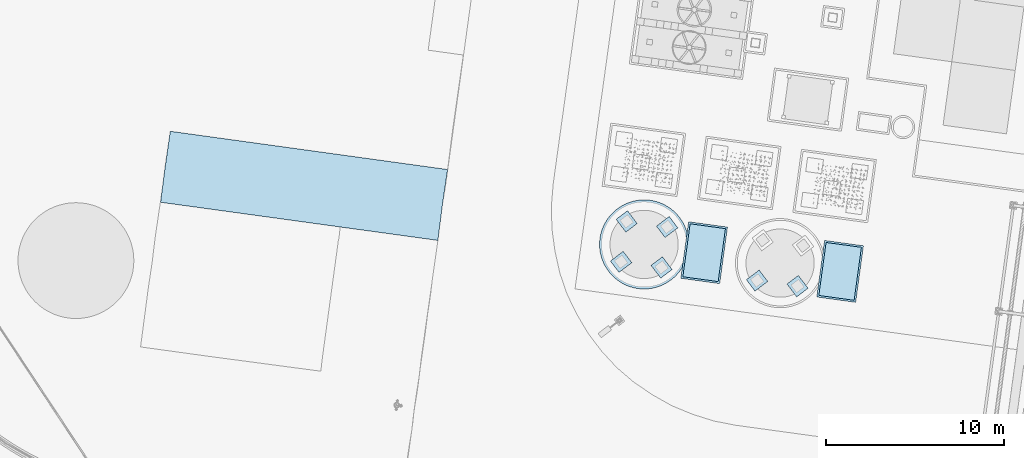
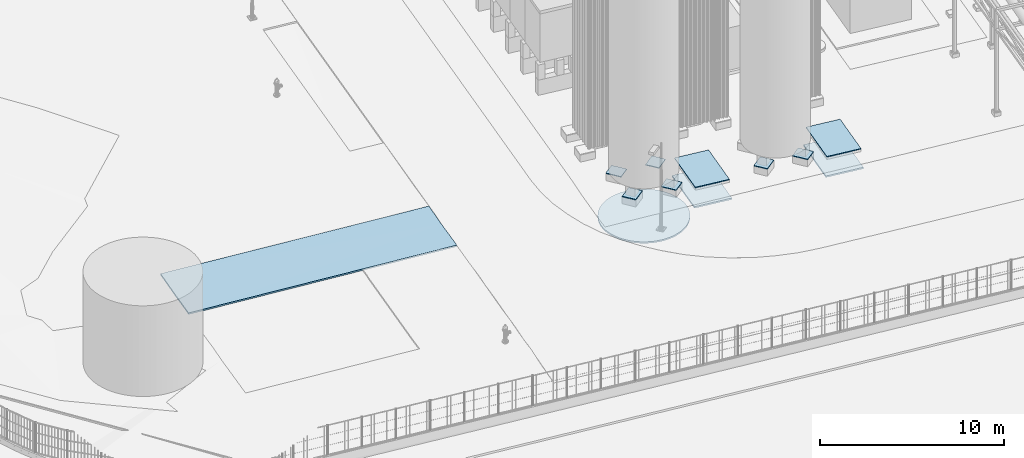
# Not in any storey, part 13 of 75: 12 slabs.
"""IFC4 model written with IfcOpenShell, lengths in metres."""

from ifc_helpers import new_model, si_unit, direction, origin, origin_with_axes, place, context, subcontext, project, spatial, triangles, material, element, save


model = new_model("IFC4")

# Units and contexts
model_context = context("Model", 3, precision=1e-05, world=origin_with_axes(), true_north=direction((0.0, 1.0)))
body_context = subcontext(model_context, "Body", "Model", "MODEL_VIEW")
ifc_project = project(units=[si_unit("AREAUNIT", "SQUARE_METRE"), si_unit("VOLUMEUNIT", "CUBIC_METRE"), si_unit("LENGTHUNIT", "METRE")], contexts=[model_context])

# Site
site_placement = place(None, origin_with_axes())
site = spatial("IfcSite", under=ifc_project, at=site_placement, Name="Parcela industrial Jinhong")

# Slabs
slab_1_placement = place(site_placement, origin_with_axes())
element("IfcSlab", 1, at=slab_1_placement, inside=site, Name="Zona pavimentada 01", ObjectType="Pavimentos exteriores", PredefinedType="USERDEFINED", context=body_context, shape_type="Tessellation", body=[
    triangles([(25.079249, 34.882136, 0.937637), (9.487189, 36.721412, 0.603629), (9.793376, 38.862508, 0.60182), (25.351279, 36.716545, 0.931525), (24.806968, 32.740098, 0.945256), (9.453405, 34.852006, 0.610298), (9.249072, 34.886078, 0.60571), (25.079249, 34.882136, 1.037637), (9.487189, 36.721412, 0.703629), (9.793376, 38.862508, 0.70182), (25.351279, 36.716545, 1.031525), (24.806968, 32.740098, 1.045256), (9.453405, 34.852006, 0.710298), (9.249072, 34.886078, 0.70571)], [[1, 2, 3], [3, 4, 1], [1, 5, 6], [2, 6, 7], [2, 1, 6], [10, 9, 8], [8, 11, 10], [13, 12, 8], [14, 13, 9], [13, 8, 9], [9, 10, 2], [2, 10, 3], [11, 8, 4], [4, 8, 1], [10, 11, 3], [3, 11, 4], [8, 12, 1], [1, 12, 5], [12, 13, 5], [5, 13, 6], [14, 9, 7], [7, 9, 2], [13, 14, 6], [6, 14, 7]], closed=True),
])
ifc_material_1 = material(Name="Hormigón de limpieza HA-20", Category="Material documentado")
slab_2_placement = place(None, origin())
element("IfcSlab", 2, at=slab_2_placement, inside=site, material=ifc_material_1, Name="Cimentación del depósito SV1801A · capa de limpieza", ObjectType="Cimentación industrial", PredefinedType="USERDEFINED", context=body_context, shape_type="Tessellation", body=[
    triangles([(38.841232, 32.092655, -1.0), (38.826126, 32.012252, -1.0), (38.808397, 31.932388, -1.0), (38.739679, 31.696869, -1.0), (38.788065, 31.853146, -1.0), (38.765151, 31.774611, -1.0), (38.681176, 31.54409, -1.0), (38.711677, 31.62, -1.0), (38.612806, 31.395465, -1.0), (38.648208, 31.469218, -1.0), (38.575011, 31.32291, -1.0), (38.400736, 31.0462, -1.0), (38.534862, 31.25163, -1.0), (38.492403, 31.181703, -1.0), (38.447678, 31.113201, -1.0), (38.247119, 30.854906, -1.0), (38.351626, 30.980771, -1.0), (38.300403, 30.916983, -1.0), (38.134604, 30.736145, -1.0), (38.191834, 30.794605, -1.0), (38.075492, 30.679589, -1.0), (37.887508, 30.52194, -1.0), (38.014563, 30.624998, -1.0), (37.951878, 30.572429, -1.0), (37.753985, 30.427412, -1.0), (37.82152, 30.473584, -1.0), (37.684977, 30.383476, -1.0), (37.469848, 30.265529, -1.0), (37.614567, 30.341819, -1.0), (37.542832, 30.30249, -1.0), (37.32045, 30.198866, -1.0), (37.395695, 30.230975, -1.0), (37.244195, 30.169236, -1.0), (37.167012, 30.142117, -1.0), (37.088982, 30.117538, -1.0), (37.010191, 30.095526, -1.0), (36.93072, 30.076103, -1.0), (36.689096, 30.033567, -1.0), (36.850657, 30.05929, -1.0), (36.770088, 30.045106, -1.0), (36.526198, 30.018464, -1.0), (36.607771, 30.024683, -1.0), (36.362662, 30.014048, -1.0), (36.444466, 30.014917, -1.0), (36.036472, 30.037305, -1.0), (36.280872, 30.015855, -1.0), (36.199187, 30.020337, -1.0), (36.11769, 30.02749, -1.0), (35.795352, 30.082607, -1.0), (35.955619, 30.049772, -1.0), (35.875216, 30.064878, -1.0), (35.559832, 30.151325, -1.0), (35.71611, 30.10294, -1.0), (35.637575, 30.125853, -1.0), (35.407054, 30.209828, -1.0), (35.482964, 30.179327, -1.0), (35.258429, 30.278198, -1.0), (35.332182, 30.242797, -1.0), (35.185874, 30.315993, -1.0), (34.909164, 30.490268, -1.0), (35.114594, 30.356142, -1.0), (35.044667, 30.398601, -1.0), (34.976165, 30.443326, -1.0), (34.71787, 30.643885, -1.0), (34.843734, 30.539378, -1.0), (34.779947, 30.590601, -1.0), (34.599109, 30.7564, -1.0), (34.657569, 30.69917, -1.0), (34.542553, 30.815512, -1.0), (34.384904, 31.003497, -1.0), (34.487962, 30.876442, -1.0), (34.435393, 30.939126, -1.0), (34.290376, 31.137019, -1.0), (34.336547, 31.069484, -1.0), (34.246439, 31.206027, -1.0), (34.128493, 31.421156, -1.0), (34.204783, 31.276437, -1.0), (34.165453, 31.348173, -1.0), (34.06183, 31.570554, -1.0), (34.093939, 31.495309, -1.0), (34.0322, 31.646809, -1.0), (34.005081, 31.723992, -1.0), (33.980502, 31.802022, -1.0), (33.958489, 31.880814, -1.0), (33.939067, 31.960284, -1.0), (33.89653, 32.201908, -1.0), (33.922254, 32.040347, -1.0), (33.90807, 32.120917, -1.0), (33.881428, 32.364806, -1.0), (33.887646, 32.283233, -1.0), (33.877012, 32.528343, -1.0), (33.877881, 32.446538, -1.0), (33.900269, 32.854532, -1.0), (33.878819, 32.610132, -1.0), (33.883301, 32.691818, -1.0), (33.890453, 32.773314, -1.0), (33.945571, 33.095653, -1.0), (33.912736, 32.935385, -1.0), (33.927842, 33.015788, -1.0), (34.014289, 33.331172, -1.0), (33.965903, 33.174895, -1.0), (33.988817, 33.25343, -1.0), (34.072792, 33.48395, -1.0), (34.042291, 33.40804, -1.0), (34.141162, 33.632575, -1.0), (34.10576, 33.558823, -1.0), (34.178957, 33.70513, -1.0), (34.353232, 33.98184, -1.0), (34.219106, 33.77641, -1.0), (34.261565, 33.846338, -1.0), (34.30629, 33.914839, -1.0), (34.506849, 34.173135, -1.0), (34.402342, 34.04727, -1.0), (34.453565, 34.111058, -1.0), (34.619364, 34.291895, -1.0), (34.562134, 34.233435, -1.0), (34.678476, 34.348451, -1.0), (34.86646, 34.5061, -1.0), (34.739405, 34.403042, -1.0), (34.80209, 34.455611, -1.0), (34.999983, 34.600629, -1.0), (34.932448, 34.554457, -1.0), (35.068991, 34.644565, -1.0), (35.28412, 34.762512, -1.0), (35.139401, 34.686221, -1.0), (35.211136, 34.725551, -1.0), (35.433518, 34.829174, -1.0), (35.358273, 34.797066, -1.0), (35.509773, 34.858804, -1.0), (35.586956, 34.885923, -1.0), (35.664986, 34.910502, -1.0), (35.743778, 34.932515, -1.0), (35.823248, 34.951938, -1.0), (36.064872, 34.994474, -1.0), (35.903311, 34.968751, -1.0), (35.98388, 34.982935, -1.0), (36.22777, 35.009576, -1.0), (36.146197, 35.003358, -1.0), (36.391306, 35.013992, -1.0), (36.309502, 35.013123, -1.0), (36.717496, 34.990735, -1.0), (36.473096, 35.012185, -1.0), (36.554781, 35.007704, -1.0), (36.636278, 35.000551, -1.0), (36.958616, 34.945433, -1.0), (36.798349, 34.978268, -1.0), (36.878752, 34.963163, -1.0), (37.194136, 34.876715, -1.0), (37.037858, 34.925101, -1.0), (37.116393, 34.902188, -1.0), (37.346914, 34.818212, -1.0), (37.271004, 34.848714, -1.0), (37.495539, 34.749843, -1.0), (37.421786, 34.785244, -1.0), (37.568094, 34.712047, -1.0), (37.844804, 34.537772, -1.0), (37.639374, 34.671898, -1.0), (37.709302, 34.629439, -1.0), (37.777803, 34.584714, -1.0), (38.036098, 34.384156, -1.0), (37.910234, 34.488663, -1.0), (37.974021, 34.437439, -1.0), (38.154859, 34.27164, -1.0), (38.096399, 34.32887, -1.0), (38.211415, 34.212528, -1.0), (38.369064, 34.024544, -1.0), (38.266006, 34.151599, -1.0), (38.318575, 34.088915, -1.0), (38.463592, 33.891022, -1.0), (38.417421, 33.958557, -1.0), (38.507529, 33.822013, -1.0), (38.625476, 33.606884, -1.0), (38.549185, 33.751603, -1.0), (38.588515, 33.679868, -1.0), (38.692138, 33.457487, -1.0), (38.66003, 33.532731, -1.0), (38.721768, 33.381231, -1.0), (38.748887, 33.304048, -1.0), (38.773466, 33.226018, -1.0), (38.795479, 33.147227, -1.0), (38.814901, 33.067757, -1.0), (38.857438, 32.826132, -1.0), (38.831714, 32.987694, -1.0), (38.845899, 32.907124, -1.0), (38.87254, 32.663234, -1.0), (38.866322, 32.744807, -1.0), (38.876956, 32.499698, -1.0), (38.876087, 32.581503, -1.0), (38.853699, 32.173509, -1.0), (38.875149, 32.417909, -1.0), (38.870667, 32.336223, -1.0), (38.863515, 32.254727, -1.0), (38.841232, 32.092655, -0.9), (38.826126, 32.012252, -0.9), (38.808397, 31.932388, -0.9), (38.739679, 31.696869, -0.9), (38.788065, 31.853146, -0.9), (38.765151, 31.774611, -0.9), (38.681176, 31.54409, -0.9), (38.711677, 31.62, -0.9), (38.612806, 31.395465, -0.9), (38.648208, 31.469218, -0.9), (38.575011, 31.32291, -0.9), (38.400736, 31.0462, -0.9), (38.534862, 31.25163, -0.9), (38.492403, 31.181703, -0.9), (38.447678, 31.113201, -0.9), (38.247119, 30.854906, -0.9), (38.351626, 30.980771, -0.9), (38.300403, 30.916983, -0.9), (38.134604, 30.736145, -0.9), (38.191834, 30.794605, -0.9), (38.075492, 30.679589, -0.9), (37.887508, 30.52194, -0.9), (38.014563, 30.624998, -0.9), (37.951878, 30.572429, -0.9), (37.753985, 30.427412, -0.9), (37.82152, 30.473584, -0.9), (37.684977, 30.383476, -0.9), (37.469848, 30.265529, -0.9), (37.614567, 30.341819, -0.9), (37.542832, 30.30249, -0.9), (37.32045, 30.198866, -0.9), (37.395695, 30.230975, -0.9), (37.244195, 30.169236, -0.9), (37.167012, 30.142117, -0.9), (37.088982, 30.117538, -0.9), (37.010191, 30.095526, -0.9), (36.93072, 30.076103, -0.9), (36.689096, 30.033567, -0.9), (36.850657, 30.05929, -0.9), (36.770088, 30.045106, -0.9), (36.526198, 30.018464, -0.9), (36.607771, 30.024683, -0.9), (36.362662, 30.014048, -0.9), (36.444466, 30.014917, -0.9), (36.036472, 30.037305, -0.9), (36.280872, 30.015855, -0.9), (36.199187, 30.020337, -0.9), (36.11769, 30.02749, -0.9), (35.795352, 30.082607, -0.9), (35.955619, 30.049772, -0.9), (35.875216, 30.064878, -0.9), (35.559832, 30.151325, -0.9), (35.71611, 30.10294, -0.9), (35.637575, 30.125853, -0.9), (35.407054, 30.209828, -0.9), (35.482964, 30.179327, -0.9), (35.258429, 30.278198, -0.9), (35.332182, 30.242797, -0.9), (35.185874, 30.315993, -0.9), (34.909164, 30.490268, -0.9), (35.114594, 30.356142, -0.9), (35.044667, 30.398601, -0.9), (34.976165, 30.443326, -0.9), (34.71787, 30.643885, -0.9), (34.843734, 30.539378, -0.9), (34.779947, 30.590601, -0.9), (34.599109, 30.7564, -0.9), (34.657569, 30.69917, -0.9), (34.542553, 30.815512, -0.9), (34.384904, 31.003497, -0.9), (34.487962, 30.876442, -0.9), (34.435393, 30.939126, -0.9), (34.290376, 31.137019, -0.9), (34.336547, 31.069484, -0.9), (34.246439, 31.206027, -0.9), (34.128493, 31.421156, -0.9), (34.204783, 31.276437, -0.9), (34.165453, 31.348173, -0.9), (34.06183, 31.570554, -0.9), (34.093939, 31.495309, -0.9), (34.0322, 31.646809, -0.9), (34.005081, 31.723992, -0.9), (33.980502, 31.802022, -0.9), (33.958489, 31.880814, -0.9), (33.939067, 31.960284, -0.9), (33.89653, 32.201908, -0.9), (33.922254, 32.040347, -0.9), (33.90807, 32.120917, -0.9), (33.881428, 32.364806, -0.9), (33.887646, 32.283233, -0.9), (33.877012, 32.528343, -0.9), (33.877881, 32.446538, -0.9), (33.900269, 32.854532, -0.9), (33.878819, 32.610132, -0.9), (33.883301, 32.691818, -0.9), (33.890453, 32.773314, -0.9), (33.945571, 33.095653, -0.9), (33.912736, 32.935385, -0.9), (33.927842, 33.015788, -0.9), (34.014289, 33.331172, -0.9), (33.965903, 33.174895, -0.9), (33.988817, 33.25343, -0.9), (34.072792, 33.48395, -0.9), (34.042291, 33.40804, -0.9), (34.141162, 33.632575, -0.9), (34.10576, 33.558823, -0.9), (34.178957, 33.70513, -0.9), (34.353232, 33.98184, -0.9), (34.219106, 33.77641, -0.9), (34.261565, 33.846338, -0.9), (34.30629, 33.914839, -0.9), (34.506849, 34.173135, -0.9), (34.402342, 34.04727, -0.9), (34.453565, 34.111058, -0.9), (34.619364, 34.291895, -0.9), (34.562134, 34.233435, -0.9), (34.678476, 34.348451, -0.9), (34.86646, 34.5061, -0.9), (34.739405, 34.403042, -0.9), (34.80209, 34.455611, -0.9), (34.999983, 34.600629, -0.9), (34.932448, 34.554457, -0.9), (35.068991, 34.644565, -0.9), (35.28412, 34.762512, -0.9), (35.139401, 34.686221, -0.9), (35.211136, 34.725551, -0.9), (35.433518, 34.829174, -0.9), (35.358273, 34.797066, -0.9), (35.509773, 34.858804, -0.9), (35.586956, 34.885923, -0.9), (35.664986, 34.910502, -0.9), (35.743778, 34.932515, -0.9), (35.823248, 34.951938, -0.9), (36.064872, 34.994474, -0.9), (35.903311, 34.968751, -0.9), (35.98388, 34.982935, -0.9), (36.22777, 35.009576, -0.9), (36.146197, 35.003358, -0.9), (36.391306, 35.013992, -0.9), (36.309502, 35.013123, -0.9), (36.717496, 34.990735, -0.9), (36.473096, 35.012185, -0.9), (36.554781, 35.007704, -0.9), (36.636278, 35.000551, -0.9), (36.958616, 34.945433, -0.9), (36.798349, 34.978268, -0.9), (36.878752, 34.963163, -0.9), (37.194136, 34.876715, -0.9), (37.037858, 34.925101, -0.9), (37.116393, 34.902188, -0.9), (37.346914, 34.818212, -0.9), (37.271004, 34.848714, -0.9), (37.495539, 34.749843, -0.9), (37.421786, 34.785244, -0.9), (37.568094, 34.712047, -0.9), (37.844804, 34.537772, -0.9), (37.639374, 34.671898, -0.9), (37.709302, 34.629439, -0.9), (37.777803, 34.584714, -0.9), (38.036098, 34.384156, -0.9), (37.910234, 34.488663, -0.9), (37.974021, 34.437439, -0.9), (38.154859, 34.27164, -0.9), (38.096399, 34.32887, -0.9), (38.211415, 34.212528, -0.9), (38.369064, 34.024544, -0.9), (38.266006, 34.151599, -0.9), (38.318575, 34.088915, -0.9), (38.463592, 33.891022, -0.9), (38.417421, 33.958557, -0.9), (38.507529, 33.822013, -0.9), (38.625476, 33.606884, -0.9), (38.549185, 33.751603, -0.9), (38.588515, 33.679868, -0.9), (38.692138, 33.457487, -0.9), (38.66003, 33.532731, -0.9), (38.721768, 33.381231, -0.9), (38.748887, 33.304048, -0.9), (38.773466, 33.226018, -0.9), (38.795479, 33.147227, -0.9), (38.814901, 33.067757, -0.9), (38.857438, 32.826132, -0.9), (38.831714, 32.987694, -0.9), (38.845899, 32.907124, -0.9), (38.87254, 32.663234, -0.9), (38.866322, 32.744807, -0.9), (38.876956, 32.499698, -0.9), (38.876087, 32.581503, -0.9), (38.853699, 32.173509, -0.9), (38.875149, 32.417909, -0.9), (38.870667, 32.336223, -0.9), (38.863515, 32.254727, -0.9)], [[1, 2, 3], [4, 5, 6], [7, 4, 8], [9, 7, 10], [7, 9, 11], [12, 13, 14], [14, 15, 12], [16, 17, 18], [19, 16, 20], [16, 19, 21], [22, 23, 24], [25, 22, 26], [22, 25, 27], [28, 29, 30], [31, 28, 32], [28, 31, 33], [33, 34, 35], [33, 36, 37], [38, 39, 40], [41, 38, 42], [43, 41, 44], [45, 43, 46], [46, 47, 48], [49, 45, 50], [50, 51, 49], [52, 53, 54], [55, 52, 56], [57, 55, 58], [55, 57, 59], [60, 61, 62], [62, 63, 60], [64, 65, 66], [67, 64, 68], [64, 67, 69], [70, 71, 72], [73, 70, 74], [70, 73, 75], [76, 77, 78], [79, 76, 80], [76, 79, 81], [81, 82, 83], [81, 84, 85], [86, 87, 88], [89, 86, 90], [91, 89, 92], [93, 91, 94], [94, 95, 96], [97, 93, 98], [98, 99, 97], [100, 101, 102], [103, 100, 104], [105, 103, 106], [103, 105, 107], [108, 109, 110], [110, 111, 108], [112, 113, 114], [115, 112, 116], [112, 115, 117], [118, 119, 120], [121, 118, 122], [118, 121, 123], [124, 125, 126], [127, 124, 128], [124, 127, 129], [129, 130, 131], [129, 132, 133], [134, 135, 136], [137, 134, 138], [139, 137, 140], [141, 139, 142], [142, 143, 144], [145, 141, 146], [146, 147, 145], [148, 149, 150], [151, 148, 152], [153, 151, 154], [151, 153, 155], [156, 157, 158], [158, 159, 156], [160, 161, 162], [163, 160, 164], [160, 163, 165], [166, 167, 168], [169, 166, 170], [166, 169, 171], [172, 173, 174], [175, 172, 176], [172, 175, 177], [177, 178, 179], [177, 180, 181], [182, 183, 184], [185, 182, 186], [187, 185, 188], [189, 187, 190], [190, 191, 192], [3, 189, 1], [189, 3, 5], [5, 4, 7], [13, 12, 11], [22, 11, 16], [22, 16, 21], [23, 22, 21], [29, 28, 27], [37, 28, 33], [36, 33, 35], [38, 37, 39], [38, 41, 43], [45, 46, 48], [45, 49, 53], [53, 52, 55], [61, 60, 59], [70, 59, 64], [70, 64, 69], [71, 70, 69], [77, 76, 75], [85, 76, 81], [84, 81, 83], [86, 85, 87], [86, 89, 91], [93, 94, 96], [93, 97, 101], [101, 100, 103], [109, 108, 107], [118, 107, 112], [118, 112, 117], [119, 118, 117], [125, 124, 123], [133, 124, 129], [132, 129, 131], [134, 133, 135], [134, 137, 139], [141, 142, 144], [141, 145, 149], [149, 148, 151], [157, 156, 155], [166, 155, 160], [166, 160, 165], [167, 166, 165], [173, 172, 171], [181, 172, 177], [180, 177, 179], [182, 181, 183], [182, 185, 187], [189, 190, 192], [16, 11, 12], [16, 12, 17], [28, 22, 27], [101, 91, 93], [22, 37, 38], [45, 53, 43], [64, 59, 60], [64, 60, 65], [76, 70, 75], [85, 70, 76], [70, 85, 86], [103, 86, 101], [112, 107, 108], [112, 108, 113], [124, 118, 123], [166, 22, 118], [118, 133, 134], [141, 149, 139], [160, 155, 156], [160, 156, 161], [172, 166, 171], [181, 166, 172], [166, 181, 182], [7, 166, 182], [37, 22, 28], [11, 22, 7], [55, 43, 53], [43, 55, 38], [118, 86, 103], [101, 86, 91], [166, 7, 22], [107, 118, 103], [134, 139, 149], [134, 151, 166], [5, 187, 189], [5, 182, 187], [55, 22, 38], [22, 55, 70], [59, 70, 55], [133, 118, 124], [151, 134, 149], [7, 182, 5], [86, 118, 70], [70, 118, 22], [155, 166, 151], [166, 118, 134], [195, 194, 193], [198, 197, 196], [200, 196, 199], [202, 199, 201], [203, 201, 199], [206, 205, 204], [204, 207, 206], [210, 209, 208], [212, 208, 211], [213, 211, 208], [216, 215, 214], [218, 214, 217], [219, 217, 214], [222, 221, 220], [224, 220, 223], [225, 223, 220], [227, 226, 225], [229, 228, 225], [232, 231, 230], [234, 230, 233], [236, 233, 235], [238, 235, 237], [240, 239, 238], [242, 237, 241], [241, 243, 242], [246, 245, 244], [248, 244, 247], [250, 247, 249], [251, 249, 247], [254, 253, 252], [252, 255, 254], [258, 257, 256], [260, 256, 259], [261, 259, 256], [264, 263, 262], [266, 262, 265], [267, 265, 262], [270, 269, 268], [272, 268, 271], [273, 271, 268], [275, 274, 273], [277, 276, 273], [280, 279, 278], [282, 278, 281], [284, 281, 283], [286, 283, 285], [288, 287, 286], [290, 285, 289], [289, 291, 290], [294, 293, 292], [296, 292, 295], [298, 295, 297], [299, 297, 295], [302, 301, 300], [300, 303, 302], [306, 305, 304], [308, 304, 307], [309, 307, 304], [312, 311, 310], [314, 310, 313], [315, 313, 310], [318, 317, 316], [320, 316, 319], [321, 319, 316], [323, 322, 321], [325, 324, 321], [328, 327, 326], [330, 326, 329], [332, 329, 331], [334, 331, 333], [336, 335, 334], [338, 333, 337], [337, 339, 338], [342, 341, 340], [344, 340, 343], [346, 343, 345], [347, 345, 343], [350, 349, 348], [348, 351, 350], [354, 353, 352], [356, 352, 355], [357, 355, 352], [360, 359, 358], [362, 358, 361], [363, 361, 358], [366, 365, 364], [368, 364, 367], [369, 367, 364], [371, 370, 369], [373, 372, 369], [376, 375, 374], [378, 374, 377], [380, 377, 379], [382, 379, 381], [384, 383, 382], [193, 381, 195], [197, 195, 381], [199, 196, 197], [203, 204, 205], [208, 203, 214], [213, 208, 214], [213, 214, 215], [219, 220, 221], [225, 220, 229], [227, 225, 228], [231, 229, 230], [235, 233, 230], [240, 238, 237], [245, 241, 237], [247, 244, 245], [251, 252, 253], [256, 251, 262], [261, 256, 262], [261, 262, 263], [267, 268, 269], [273, 268, 277], [275, 273, 276], [279, 277, 278], [283, 281, 278], [288, 286, 285], [293, 289, 285], [295, 292, 293], [299, 300, 301], [304, 299, 310], [309, 304, 310], [309, 310, 311], [315, 316, 317], [321, 316, 325], [323, 321, 324], [327, 325, 326], [331, 329, 326], [336, 334, 333], [341, 337, 333], [343, 340, 341], [347, 348, 349], [352, 347, 358], [357, 352, 358], [357, 358, 359], [363, 364, 365], [369, 364, 373], [371, 369, 372], [375, 373, 374], [379, 377, 374], [384, 382, 381], [204, 203, 208], [209, 204, 208], [219, 214, 220], [285, 283, 293], [230, 229, 214], [235, 245, 237], [252, 251, 256], [257, 252, 256], [267, 262, 268], [268, 262, 277], [278, 277, 262], [293, 278, 295], [300, 299, 304], [305, 300, 304], [315, 310, 316], [310, 214, 358], [326, 325, 310], [331, 341, 333], [348, 347, 352], [353, 348, 352], [363, 358, 364], [364, 358, 373], [374, 373, 358], [374, 358, 199], [220, 214, 229], [199, 214, 203], [245, 235, 247], [230, 247, 235], [295, 278, 310], [283, 278, 293], [214, 199, 358], [295, 310, 299], [341, 331, 326], [358, 343, 326], [381, 379, 197], [379, 374, 197], [230, 214, 247], [262, 247, 214], [247, 262, 251], [316, 310, 325], [341, 326, 343], [197, 374, 199], [262, 310, 278], [214, 310, 262], [343, 358, 347], [326, 310, 358], [193, 194, 1], [1, 194, 2], [194, 195, 2], [2, 195, 3], [195, 197, 3], [3, 197, 5], [198, 196, 6], [6, 196, 4], [197, 198, 5], [5, 198, 6], [196, 200, 4], [4, 200, 8], [200, 199, 8], [8, 199, 7], [199, 202, 7], [7, 202, 10], [202, 201, 10], [10, 201, 9], [201, 203, 9], [9, 203, 11], [203, 205, 11], [11, 205, 13], [205, 206, 13], [13, 206, 14], [207, 204, 15], [15, 204, 12], [206, 207, 14], [14, 207, 15], [204, 209, 12], [12, 209, 17], [210, 208, 18], [18, 208, 16], [209, 210, 17], [17, 210, 18], [208, 212, 16], [16, 212, 20], [212, 211, 20], [20, 211, 19], [211, 213, 19], [19, 213, 21], [213, 215, 21], [21, 215, 23], [216, 214, 24], [24, 214, 22], [215, 216, 23], [23, 216, 24], [214, 218, 22], [22, 218, 26], [218, 217, 26], [26, 217, 25], [217, 219, 25], [25, 219, 27], [219, 221, 27], [27, 221, 29], [222, 220, 30], [30, 220, 28], [221, 222, 29], [29, 222, 30], [220, 224, 28], [28, 224, 32], [224, 223, 32], [32, 223, 31], [223, 225, 31], [31, 225, 33], [225, 226, 33], [33, 226, 34], [226, 227, 34], [34, 227, 35], [227, 228, 35], [35, 228, 36], [228, 229, 36], [36, 229, 37], [229, 231, 37], [37, 231, 39], [232, 230, 40], [40, 230, 38], [231, 232, 39], [39, 232, 40], [230, 234, 38], [38, 234, 42], [234, 233, 42], [42, 233, 41], [233, 236, 41], [41, 236, 44], [236, 235, 44], [44, 235, 43], [235, 238, 43], [43, 238, 46], [238, 239, 46], [46, 239, 47], [240, 237, 48], [48, 237, 45], [239, 240, 47], [47, 240, 48], [237, 242, 45], [45, 242, 50], [243, 241, 51], [51, 241, 49], [242, 243, 50], [50, 243, 51], [241, 245, 49], [49, 245, 53], [246, 244, 54], [54, 244, 52], [245, 246, 53], [53, 246, 54], [244, 248, 52], [52, 248, 56], [248, 247, 56], [56, 247, 55], [247, 250, 55], [55, 250, 58], [250, 249, 58], [58, 249, 57], [249, 251, 57], [57, 251, 59], [251, 253, 59], [59, 253, 61], [253, 254, 61], [61, 254, 62], [255, 252, 63], [63, 252, 60], [254, 255, 62], [62, 255, 63], [252, 257, 60], [60, 257, 65], [258, 256, 66], [66, 256, 64], [257, 258, 65], [65, 258, 66], [256, 260, 64], [64, 260, 68], [260, 259, 68], [68, 259, 67], [259, 261, 67], [67, 261, 69], [261, 263, 69], [69, 263, 71], [264, 262, 72], [72, 262, 70], [263, 264, 71], [71, 264, 72], [262, 266, 70], [70, 266, 74], [266, 265, 74], [74, 265, 73], [265, 267, 73], [73, 267, 75], [267, 269, 75], [75, 269, 77], [270, 268, 78], [78, 268, 76], [269, 270, 77], [77, 270, 78], [268, 272, 76], [76, 272, 80], [272, 271, 80], [80, 271, 79], [271, 273, 79], [79, 273, 81], [273, 274, 81], [81, 274, 82], [274, 275, 82], [82, 275, 83], [275, 276, 83], [83, 276, 84], [276, 277, 84], [84, 277, 85], [277, 279, 85], [85, 279, 87], [280, 278, 88], [88, 278, 86], [279, 280, 87], [87, 280, 88], [278, 282, 86], [86, 282, 90], [282, 281, 90], [90, 281, 89], [281, 284, 89], [89, 284, 92], [284, 283, 92], [92, 283, 91], [283, 286, 91], [91, 286, 94], [286, 287, 94], [94, 287, 95], [288, 285, 96], [96, 285, 93], [287, 288, 95], [95, 288, 96], [285, 290, 93], [93, 290, 98], [291, 289, 99], [99, 289, 97], [290, 291, 98], [98, 291, 99], [289, 293, 97], [97, 293, 101], [294, 292, 102], [102, 292, 100], [293, 294, 101], [101, 294, 102], [292, 296, 100], [100, 296, 104], [296, 295, 104], [104, 295, 103], [295, 298, 103], [103, 298, 106], [298, 297, 106], [106, 297, 105], [297, 299, 105], [105, 299, 107], [299, 301, 107], [107, 301, 109], [301, 302, 109], [109, 302, 110], [303, 300, 111], [111, 300, 108], [302, 303, 110], [110, 303, 111], [300, 305, 108], [108, 305, 113], [306, 304, 114], [114, 304, 112], [305, 306, 113], [113, 306, 114], [304, 308, 112], [112, 308, 116], [308, 307, 116], [116, 307, 115], [307, 309, 115], [115, 309, 117], [309, 311, 117], [117, 311, 119], [312, 310, 120], [120, 310, 118], [311, 312, 119], [119, 312, 120], [310, 314, 118], [118, 314, 122], [314, 313, 122], [122, 313, 121], [313, 315, 121], [121, 315, 123], [315, 317, 123], [123, 317, 125], [318, 316, 126], [126, 316, 124], [317, 318, 125], [125, 318, 126], [316, 320, 124], [124, 320, 128], [320, 319, 128], [128, 319, 127], [319, 321, 127], [127, 321, 129], [321, 322, 129], [129, 322, 130], [322, 323, 130], [130, 323, 131], [323, 324, 131], [131, 324, 132], [324, 325, 132], [132, 325, 133], [325, 327, 133], [133, 327, 135], [328, 326, 136], [136, 326, 134], [327, 328, 135], [135, 328, 136], [326, 330, 134], [134, 330, 138], [330, 329, 138], [138, 329, 137], [329, 332, 137], [137, 332, 140], [332, 331, 140], [140, 331, 139], [331, 334, 139], [139, 334, 142], [334, 335, 142], [142, 335, 143], [336, 333, 144], [144, 333, 141], [335, 336, 143], [143, 336, 144], [333, 338, 141], [141, 338, 146], [339, 337, 147], [147, 337, 145], [338, 339, 146], [146, 339, 147], [337, 341, 145], [145, 341, 149], [342, 340, 150], [150, 340, 148], [341, 342, 149], [149, 342, 150], [340, 344, 148], [148, 344, 152], [344, 343, 152], [152, 343, 151], [343, 346, 151], [151, 346, 154], [346, 345, 154], [154, 345, 153], [345, 347, 153], [153, 347, 155], [347, 349, 155], [155, 349, 157], [349, 350, 157], [157, 350, 158], [351, 348, 159], [159, 348, 156], [350, 351, 158], [158, 351, 159], [348, 353, 156], [156, 353, 161], [354, 352, 162], [162, 352, 160], [353, 354, 161], [161, 354, 162], [352, 356, 160], [160, 356, 164], [356, 355, 164], [164, 355, 163], [355, 357, 163], [163, 357, 165], [357, 359, 165], [165, 359, 167], [360, 358, 168], [168, 358, 166], [359, 360, 167], [167, 360, 168], [358, 362, 166], [166, 362, 170], [362, 361, 170], [170, 361, 169], [361, 363, 169], [169, 363, 171], [363, 365, 171], [171, 365, 173], [366, 364, 174], [174, 364, 172], [365, 366, 173], [173, 366, 174], [364, 368, 172], [172, 368, 176], [368, 367, 176], [176, 367, 175], [367, 369, 175], [175, 369, 177], [369, 370, 177], [177, 370, 178], [370, 371, 178], [178, 371, 179], [371, 372, 179], [179, 372, 180], [372, 373, 180], [180, 373, 181], [373, 375, 181], [181, 375, 183], [376, 374, 184], [184, 374, 182], [375, 376, 183], [183, 376, 184], [374, 378, 182], [182, 378, 186], [378, 377, 186], [186, 377, 185], [377, 380, 185], [185, 380, 188], [380, 379, 188], [188, 379, 187], [381, 193, 189], [189, 193, 1], [379, 382, 187], [187, 382, 190], [382, 383, 190], [190, 383, 191], [384, 381, 192], [192, 381, 189], [383, 384, 191], [191, 384, 192]], closed=True),
])
ifc_material_2 = material(Name="Mortero HA-35 de alta resistencia sin retracción", Category="Material documentado")
slab_3_placement = place(None, origin())
element("IfcSlab", 3, at=slab_3_placement, inside=site, material=ifc_material_2, Name="Cimentación del depósito SV1801A · mortero de apoyo 1", ObjectType="Cimentación industrial", PredefinedType="USERDEFINED", context=body_context, shape_type="Tessellation", body=[
    triangles([(37.550955, 32.90221, 1.55), (37.784735, 34.083459, 1.55), (38.2681, 33.445996, 1.55), (37.06759, 33.539673, 1.55), (37.550955, 32.90221, 1.6), (37.784735, 34.083459, 1.6), (38.2681, 33.445996, 1.6), (37.06759, 33.539673, 1.6)], [[1, 2, 3], [2, 1, 4], [7, 6, 5], [8, 5, 6], [7, 5, 3], [3, 5, 1], [6, 7, 2], [2, 7, 3], [5, 8, 1], [1, 8, 4], [8, 6, 4], [4, 6, 2]], closed=True),
])
slab_4_placement = place(None, origin())
element("IfcSlab", 4, at=slab_4_placement, inside=site, material=ifc_material_2, Name="Cimentación del depósito SV1801A · mortero de apoyo 2", ObjectType="Cimentación industrial", PredefinedType="USERDEFINED", context=body_context, shape_type="Tessellation", body=[
    triangles([(35.351331, 33.204626, 1.55), (34.807545, 33.921771, 1.55), (35.445008, 34.405137, 1.55), (35.988794, 33.687992, 1.55), (35.351331, 33.204626, 1.6), (34.807545, 33.921771, 1.6), (35.445008, 34.405137, 1.6), (35.988794, 33.687992, 1.6)], [[1, 2, 3], [3, 4, 1], [7, 6, 5], [5, 8, 7], [5, 6, 1], [1, 6, 2], [6, 7, 2], [2, 7, 3], [8, 5, 4], [4, 5, 1], [7, 8, 3], [3, 8, 4]], closed=True),
])
slab_5_placement = place(None, origin())
element("IfcSlab", 5, at=slab_5_placement, inside=site, material=ifc_material_2, Name="Cimentación del depósito SV1801A · mortero de apoyo 3", ObjectType="Cimentación industrial", PredefinedType="USERDEFINED", context=body_context, shape_type="Tessellation", body=[
    triangles([(37.30896, 30.622904, 1.55), (37.402637, 31.823414, 1.55), (37.946423, 31.106269, 1.55), (36.765174, 31.340049, 1.55), (37.30896, 30.622904, 1.6), (37.402637, 31.823414, 1.6), (37.946423, 31.106269, 1.6), (36.765174, 31.340049, 1.6)], [[1, 2, 3], [2, 1, 4], [7, 6, 5], [8, 5, 6], [7, 5, 3], [3, 5, 1], [6, 7, 2], [2, 7, 3], [5, 8, 1], [1, 8, 4], [8, 6, 4], [4, 6, 2]], closed=True),
])
slab_6_placement = place(None, origin())
element("IfcSlab", 6, at=slab_6_placement, inside=site, material=ifc_material_2, Name="Cimentación del depósito SV1801A · mortero de apoyo 4", ObjectType="Cimentación industrial", PredefinedType="USERDEFINED", context=body_context, shape_type="Tessellation", body=[
    triangles([(35.203013, 32.12583, 1.55), (34.969233, 30.944582, 1.55), (34.485868, 31.582044, 1.55), (35.686378, 31.488367, 1.55), (35.203013, 32.12583, 1.6), (34.969233, 30.944582, 1.6), (34.485868, 31.582044, 1.6), (35.686378, 31.488367, 1.6)], [[1, 2, 3], [2, 1, 4], [7, 6, 5], [8, 5, 6], [7, 5, 3], [3, 5, 1], [6, 7, 2], [2, 7, 3], [5, 8, 1], [1, 8, 4], [8, 6, 4], [4, 6, 2]], closed=True),
])
slab_7_placement = place(None, origin())
element("IfcSlab", 7, at=slab_7_placement, inside=site, material=ifc_material_2, Name="Cimentación del depósito SV1801B · mortero de apoyo 3", ObjectType="Cimentación industrial", PredefinedType="USERDEFINED", context=body_context, shape_type="Tessellation", body=[
    triangles([(45.030879, 30.774644, 1.55), (45.574665, 30.057499, 1.55), (44.937202, 29.574134, 1.55), (44.393416, 30.291279, 1.55), (45.030879, 30.774644, 1.6), (45.574665, 30.057499, 1.6), (44.937202, 29.574134, 1.6), (44.393416, 30.291279, 1.6)], [[1, 2, 3], [3, 4, 1], [7, 6, 5], [5, 8, 7], [5, 6, 1], [1, 6, 2], [6, 7, 2], [2, 7, 3], [8, 5, 4], [4, 5, 1], [7, 8, 3], [3, 8, 4]], closed=True),
])
slab_8_placement = place(None, origin())
element("IfcSlab", 8, at=slab_8_placement, inside=site, material=ifc_material_2, Name="Cimentación del depósito SV1801B · mortero de apoyo 4", ObjectType="Cimentación industrial", PredefinedType="USERDEFINED", context=body_context, shape_type="Tessellation", body=[
    triangles([(42.597476, 29.895811, 1.55), (42.11411, 30.533274, 1.55), (42.831255, 31.07706, 1.55), (43.314621, 30.439597, 1.55), (42.597476, 29.895811, 1.6), (42.11411, 30.533274, 1.6), (42.831255, 31.07706, 1.6), (43.314621, 30.439597, 1.6)], [[1, 2, 3], [3, 4, 1], [7, 6, 5], [5, 8, 7], [5, 6, 1], [1, 6, 2], [6, 7, 2], [2, 7, 3], [8, 5, 4], [4, 5, 1], [7, 8, 3], [3, 8, 4]], closed=True),
])
slab_9_placement = place(None, origin())
element("IfcSlab", 9, at=slab_9_placement, inside=site, material=ifc_material_1, Name="Base de autopresurización A · capa de limpieza", ObjectType="Cimentación industrial", PredefinedType="USERDEFINED", context=body_context, shape_type="Tessellation", body=[
    triangles([(41.052974, 33.486192, 0.0), (40.617121, 30.316013, 0.0), (38.437624, 30.615662, 0.0), (38.873476, 33.785841, 0.0), (41.052974, 33.486192, 0.1), (40.617121, 30.316013, 0.1), (38.437624, 30.615662, 0.1), (38.873476, 33.785841, 0.1)], [[1, 2, 3], [3, 4, 1], [7, 6, 5], [5, 8, 7], [5, 6, 1], [1, 6, 2], [6, 7, 2], [2, 7, 3], [8, 5, 4], [4, 5, 1], [7, 8, 3], [3, 8, 4]], closed=True),
])
slab_10_placement = place(None, origin())
element("IfcSlab", 10, at=slab_10_placement, inside=site, material=ifc_material_2, Name="Base de autopresurización A · mortero superior de 50 mm", ObjectType="Cimentación industrial", PredefinedType="USERDEFINED", context=body_context, shape_type="Tessellation", body=[
    triangles([(40.940286, 33.400744, 1.25), (40.531674, 30.428702, 1.25), (38.550312, 30.70111, 1.25), (38.958924, 33.673152, 1.25), (40.940286, 33.400744, 1.3), (40.531674, 30.428702, 1.3), (38.550312, 30.70111, 1.3), (38.958924, 33.673152, 1.3)], [[1, 2, 3], [3, 4, 1], [7, 6, 5], [5, 8, 7], [5, 6, 1], [1, 6, 2], [6, 7, 2], [2, 7, 3], [8, 5, 4], [4, 5, 1], [7, 8, 3], [3, 8, 4]], closed=True),
])
slab_11_placement = place(None, origin())
element("IfcSlab", 11, at=slab_11_placement, inside=site, material=ifc_material_1, Name="Base de autopresurización B · capa de limpieza", ObjectType="Cimentación industrial", PredefinedType="USERDEFINED", context=body_context, shape_type="Tessellation", body=[
    triangles([(46.065866, 29.566892, 0.0), (48.681216, 32.437422, 0.0), (48.245364, 29.267243, 0.0), (46.501719, 32.73707, 0.0), (46.065866, 29.566892, 0.1), (48.681216, 32.437422, 0.1), (48.245364, 29.267243, 0.1), (46.501719, 32.73707, 0.1)], [[1, 2, 3], [2, 1, 4], [7, 6, 5], [8, 5, 6], [7, 5, 3], [3, 5, 1], [6, 7, 2], [2, 7, 3], [5, 8, 1], [1, 8, 4], [8, 6, 4], [4, 6, 2]], closed=True),
])
slab_12_placement = place(None, origin())
element("IfcSlab", 12, at=slab_12_placement, inside=site, material=ifc_material_2, Name="Base de autopresurización B · mortero superior de 50 mm", ObjectType="Cimentación industrial", PredefinedType="USERDEFINED", context=body_context, shape_type="Tessellation", body=[
    triangles([(48.568528, 32.351974, 1.25), (48.159916, 29.379932, 1.25), (46.178554, 29.652339, 1.25), (46.587166, 32.624382, 1.25), (48.568528, 32.351974, 1.3), (48.159916, 29.379932, 1.3), (46.178554, 29.652339, 1.3), (46.587166, 32.624382, 1.3)], [[1, 2, 3], [3, 4, 1], [7, 6, 5], [5, 8, 7], [5, 6, 1], [1, 6, 2], [6, 7, 2], [2, 7, 3], [8, 5, 4], [4, 5, 1], [7, 8, 3], [3, 8, 4]], closed=True),
])

save(model, "model.ifc")
